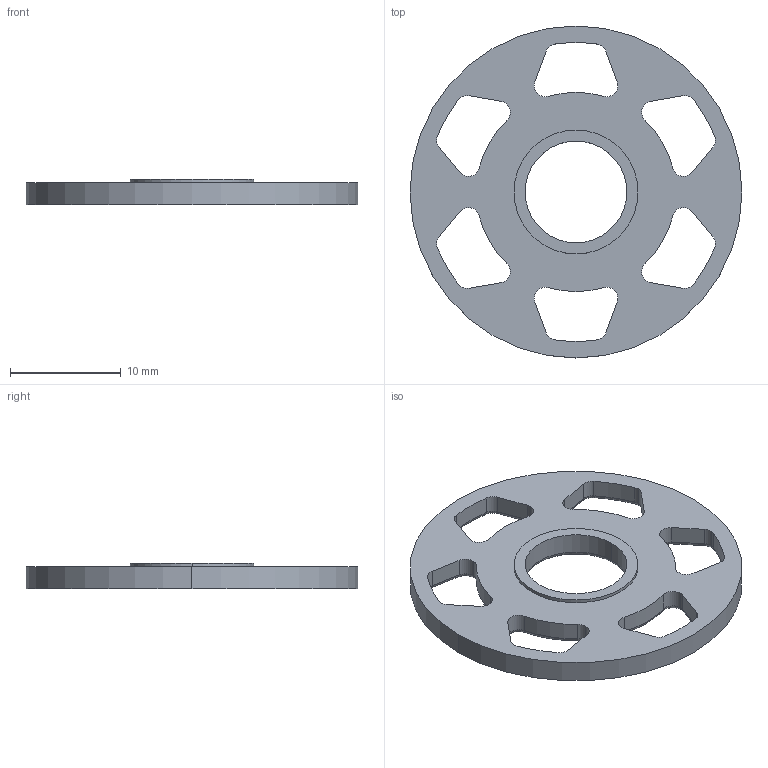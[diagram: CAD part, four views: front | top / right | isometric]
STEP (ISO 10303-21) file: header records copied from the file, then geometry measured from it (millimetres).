
FILE_DESCRIPTION (( 'STEP AP214' ), '1' );
FILE_NAME ('Torque-Case-B.STEP', '2020-05-03T10:35:32', ( 'Valera' ), ( '' ), 'SwSTEP 2.0', 'SolidWorks 2020', '' );
FILE_SCHEMA (( 'AUTOMOTIVE_DESIGN' ));
Length unit declared in the file: millimetre
Products named in the file (1): Torque-Case-B
Bounding box: 30 x 30 x 2.3 mm (x, y, z)
Volume: 930 mm3; surface area: 1421 mm2
Topology: 1 solids, 1 shells, 119 faces, 292 edges, 176 vertices
Faces by surface type: cylinder 60, torus 44, plane 15
Entity records: 3616 total; most frequent: DIRECTION 728, CARTESIAN_POINT 588, ORIENTED_EDGE 584, AXIS2_PLACEMENT_3D 316, EDGE_CURVE 292, CIRCLE 196, VERTEX_POINT 176, EDGE_LOOP 134
